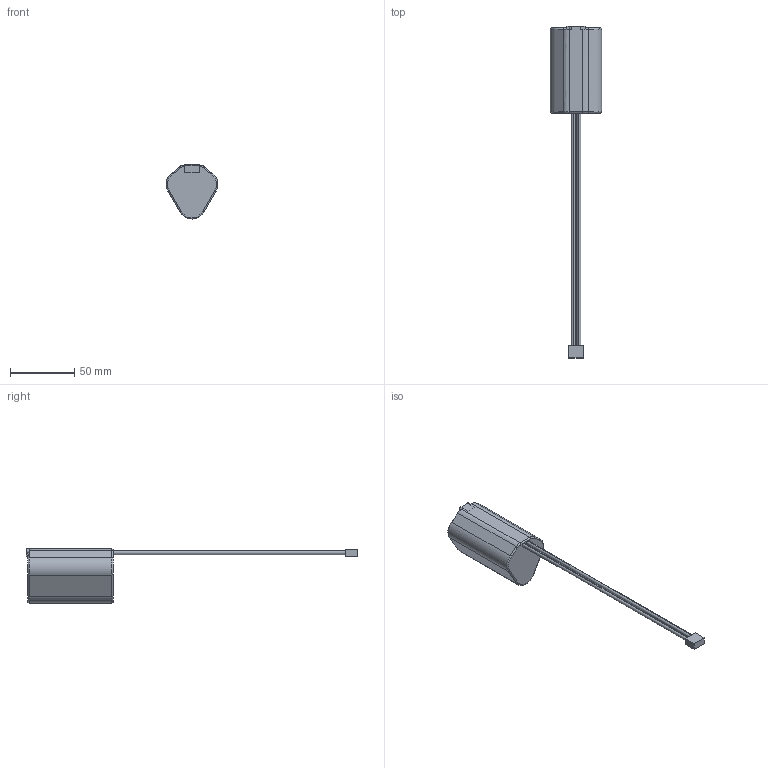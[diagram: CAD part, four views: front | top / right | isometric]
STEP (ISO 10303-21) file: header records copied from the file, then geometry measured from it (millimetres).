
FILE_DESCRIPTION (( 'STEP AP203' ), '1' );
FILE_NAME ('3sBattery.STEP', '2025-12-04T09:19:37', ( 'BBL' ), ( 'BBL' ), 'SwSTEP 2.0', 'SolidWorks 2024', '' );
FILE_SCHEMA (( 'CONFIG_CONTROL_DESIGN' ));
Length unit declared in the file: millimetre
Products named in the file (1): 3sBattery
Bounding box: 40.02 x 257.5 x 42 mm (x, y, z)
Volume: 82283.8 mm3; surface area: 14715.1 mm2
Topology: 1 solids, 1 shells, 67 faces, 164 edges, 102 vertices
Faces by surface type: plane 36, cylinder 21, torus 6, bspline 4
Entity records: 2170 total; most frequent: CARTESIAN_POINT 518, ORIENTED_EDGE 328, DIRECTION 328, EDGE_CURVE 164, AXIS2_PLACEMENT_3D 114, VERTEX_POINT 102, LINE 100, VECTOR 100
